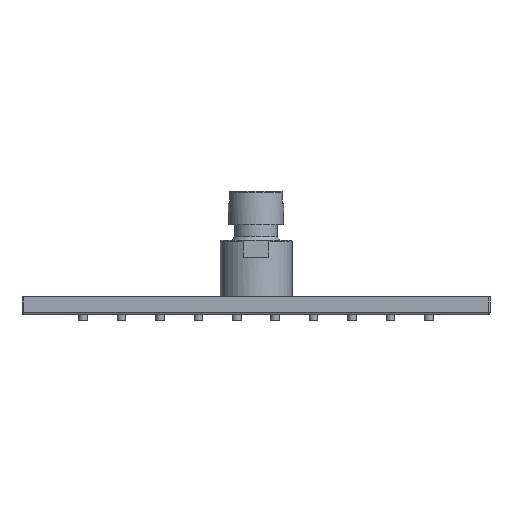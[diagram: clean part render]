
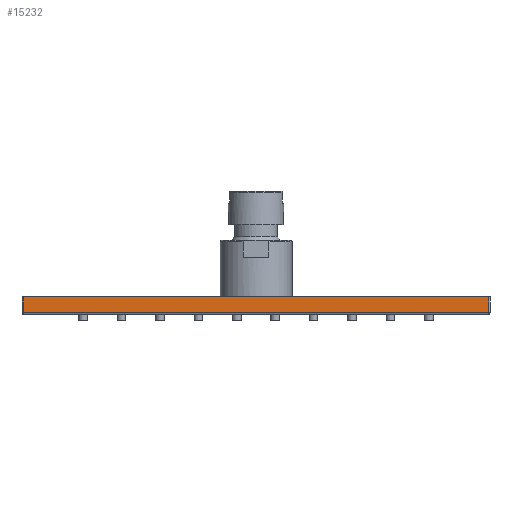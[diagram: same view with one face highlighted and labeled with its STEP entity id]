
A CAD part, front view. The second image highlights one B-rep face of the part: STEP entity #15232.
In plain terms, the highlighted planar face has unit normal (0, -1, 0).
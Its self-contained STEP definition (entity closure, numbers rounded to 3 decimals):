
#214 = VECTOR ( 'NONE', #26981, 1000. ) ;
#2340 = LINE ( 'NONE', #2494, #14995 ) ;
#2494 = CARTESIAN_POINT ( 'NONE',  ( -97.5, -97.5, 1. ) ) ;
#2572 = EDGE_CURVE ( 'NONE', #21685, #10131, #3000, .T. ) ;
#3000 = LINE ( 'NONE', #29144, #214 ) ;
#5059 = CARTESIAN_POINT ( 'NONE',  ( -97., -97.5, 1. ) ) ;
#5139 = DIRECTION ( 'NONE',  ( 1., 0., 0. ) ) ;
#5263 = DIRECTION ( 'NONE',  ( 1., 0., 0. ) ) ;
#5441 = DIRECTION ( 'NONE',  ( 0., 1., 0. ) ) ;
#5841 = ORIENTED_EDGE ( 'NONE', *, *, #2572, .F. ) ;
#6189 = EDGE_CURVE ( 'NONE', #16499, #10131, #20316, .T. ) ;
#7732 = CARTESIAN_POINT ( 'NONE',  ( -97., -97.5, 7.5 ) ) ;
#8081 = DIRECTION ( 'NONE',  ( 0., 0., 1. ) ) ;
#9643 = AXIS2_PLACEMENT_3D ( 'NONE', #26185, #5441, #5139 ) ;
#9858 = EDGE_CURVE ( 'NONE', #15939, #16499, #2340, .T. ) ;
#10131 = VERTEX_POINT ( 'NONE', #29848 ) ;
#10730 = CARTESIAN_POINT ( 'NONE',  ( 97., -97.5, 7.5 ) ) ;
#11527 = ORIENTED_EDGE ( 'NONE', *, *, #23523, .T. ) ;
#12022 = CARTESIAN_POINT ( 'NONE',  ( -97., -97.5, 7.5 ) ) ;
#12113 = PLANE ( 'NONE',  #9643 ) ;
#14995 = VECTOR ( 'NONE', #5263, 1000. ) ;
#15207 = CARTESIAN_POINT ( 'NONE',  ( 97., -97.5, 1. ) ) ;
#15232 = ADVANCED_FACE ( 'NONE', ( #21398 ), #12113, .F. ) ;
#15270 = VECTOR ( 'NONE', #26606, 1000. ) ;
#15541 = VECTOR ( 'NONE', #8081, 1000. ) ;
#15939 = VERTEX_POINT ( 'NONE', #5059 ) ;
#16499 = VERTEX_POINT ( 'NONE', #15207 ) ;
#17964 = ORIENTED_EDGE ( 'NONE', *, *, #9858, .T. ) ;
#19652 = EDGE_LOOP ( 'NONE', ( #11527, #17964, #28662, #5841 ) ) ;
#20316 = LINE ( 'NONE', #10730, #15541 ) ;
#21398 = FACE_OUTER_BOUND ( 'NONE', #19652, .T. ) ;
#21685 = VERTEX_POINT ( 'NONE', #12022 ) ;
#23523 = EDGE_CURVE ( 'NONE', #21685, #15939, #28930, .T. ) ;
#26185 = CARTESIAN_POINT ( 'NONE',  ( -97.5, -97.5, 7.5 ) ) ;
#26606 = DIRECTION ( 'NONE',  ( 0., 0., -1. ) ) ;
#26981 = DIRECTION ( 'NONE',  ( 1., 0., 0. ) ) ;
#28662 = ORIENTED_EDGE ( 'NONE', *, *, #6189, .T. ) ;
#28930 = LINE ( 'NONE', #7732, #15270 ) ;
#29144 = CARTESIAN_POINT ( 'NONE',  ( -97.5, -97.5, 7.5 ) ) ;
#29848 = CARTESIAN_POINT ( 'NONE',  ( 97., -97.5, 7.5 ) ) ;
